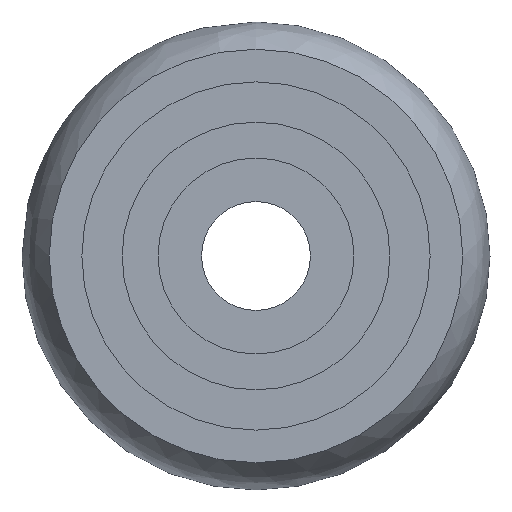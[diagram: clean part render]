
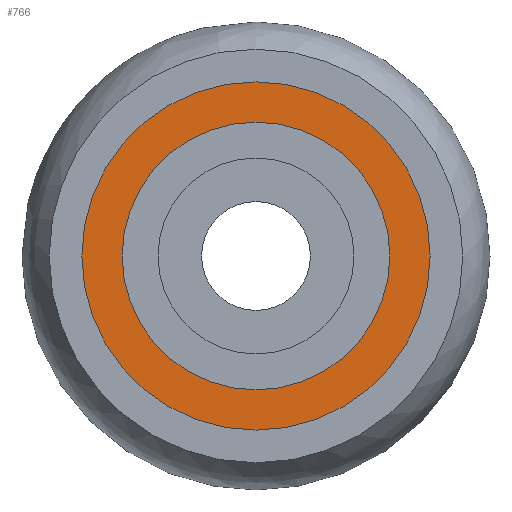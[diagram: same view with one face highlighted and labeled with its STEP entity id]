
A CAD part, left-side view. The second image highlights one B-rep face of the part: STEP entity #766.
In plain terms, the highlighted planar face has unit normal (-1, 0, 0).
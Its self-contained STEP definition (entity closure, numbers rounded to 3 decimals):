
#697 = CYLINDRICAL_SURFACE('',#698,6.15);
#698 = AXIS2_PLACEMENT_3D('',#699,#700,#701);
#699 = CARTESIAN_POINT('',(0.,0.,0.));
#700 = DIRECTION('',(1.,0.,0.));
#701 = DIRECTION('',(0.,0.,-1.));
#716 = VERTEX_POINT('',#717);
#717 = CARTESIAN_POINT('',(-2.5,0.,6.15));
#740 = EDGE_CURVE('',#716,#716,#741,.T.);
#741 = SURFACE_CURVE('',#742,(#747,#754),.PCURVE_S1.);
#742 = CIRCLE('',#743,6.15);
#743 = AXIS2_PLACEMENT_3D('',#744,#745,#746);
#744 = CARTESIAN_POINT('',(-2.5,0.,0.));
#745 = DIRECTION('',(1.,0.,0.));
#746 = DIRECTION('',(0.,0.,-1.));
#747 = PCURVE('',#697,#748);
#748 = DEFINITIONAL_REPRESENTATION('',(#749),#753);
#749 = LINE('',#750,#751);
#750 = CARTESIAN_POINT('',(0.,-2.5));
#751 = VECTOR('',#752,1.);
#752 = DIRECTION('',(1.,0.));
#753 = ( GEOMETRIC_REPRESENTATION_CONTEXT(2) 
PARAMETRIC_REPRESENTATION_CONTEXT() REPRESENTATION_CONTEXT('2D SPACE',''
  ) );
#754 = PCURVE('',#755,#760);
#755 = PLANE('',#756);
#756 = AXIS2_PLACEMENT_3D('',#757,#758,#759);
#757 = CARTESIAN_POINT('',(-2.5,0.,0.));
#758 = DIRECTION('',(1.,0.,0.));
#759 = DIRECTION('',(0.,0.,-1.));
#760 = DEFINITIONAL_REPRESENTATION('',(#761),#765);
#761 = CIRCLE('',#762,6.15);
#762 = AXIS2_PLACEMENT_2D('',#763,#764);
#763 = CARTESIAN_POINT('',(0.,0.));
#764 = DIRECTION('',(1.,0.));
#765 = ( GEOMETRIC_REPRESENTATION_CONTEXT(2) 
PARAMETRIC_REPRESENTATION_CONTEXT() REPRESENTATION_CONTEXT('2D SPACE',''
  ) );
#766 = ADVANCED_FACE('',(#767,#802),#755,.F.);
#767 = FACE_BOUND('',#768,.T.);
#768 = EDGE_LOOP('',(#769));
#769 = ORIENTED_EDGE('',*,*,#770,.T.);
#770 = EDGE_CURVE('',#771,#771,#773,.T.);
#771 = VERTEX_POINT('',#772);
#772 = CARTESIAN_POINT('',(-2.5,0.,8.));
#773 = SURFACE_CURVE('',#774,(#779,#790),.PCURVE_S1.);
#774 = CIRCLE('',#775,8.);
#775 = AXIS2_PLACEMENT_3D('',#776,#777,#778);
#776 = CARTESIAN_POINT('',(-2.5,0.,0.));
#777 = DIRECTION('',(-1.,0.,0.));
#778 = DIRECTION('',(0.,0.,-1.));
#779 = PCURVE('',#755,#780);
#780 = DEFINITIONAL_REPRESENTATION('',(#781),#789);
#781 = ( BOUNDED_CURVE() B_SPLINE_CURVE(2,(#782,#783,#784,#785,#786,#787
,#788),.UNSPECIFIED.,.T.,.F.) B_SPLINE_CURVE_WITH_KNOTS((1,2,2,2,2,1),(
    -2.094,0.,2.094,4.189,6.283,
8.378),.UNSPECIFIED.) CURVE() GEOMETRIC_REPRESENTATION_ITEM() 
RATIONAL_B_SPLINE_CURVE((1.,0.5,1.,0.5,1.,0.5,1.)) REPRESENTATION_ITEM(
  '') );
#782 = CARTESIAN_POINT('',(8.,0.));
#783 = CARTESIAN_POINT('',(8.,-13.856));
#784 = CARTESIAN_POINT('',(-4.,-6.928));
#785 = CARTESIAN_POINT('',(-16.,0.));
#786 = CARTESIAN_POINT('',(-4.,6.928));
#787 = CARTESIAN_POINT('',(8.,13.856));
#788 = CARTESIAN_POINT('',(8.,0.));
#789 = ( GEOMETRIC_REPRESENTATION_CONTEXT(2) 
PARAMETRIC_REPRESENTATION_CONTEXT() REPRESENTATION_CONTEXT('2D SPACE',''
  ) );
#790 = PCURVE('',#791,#796);
#791 = CYLINDRICAL_SURFACE('',#792,8.);
#792 = AXIS2_PLACEMENT_3D('',#793,#794,#795);
#793 = CARTESIAN_POINT('',(0.,0.,0.));
#794 = DIRECTION('',(1.,0.,0.));
#795 = DIRECTION('',(0.,0.,-1.));
#796 = DEFINITIONAL_REPRESENTATION('',(#797),#801);
#797 = LINE('',#798,#799);
#798 = CARTESIAN_POINT('',(6.283,-2.5));
#799 = VECTOR('',#800,1.);
#800 = DIRECTION('',(-1.,0.));
#801 = ( GEOMETRIC_REPRESENTATION_CONTEXT(2) 
PARAMETRIC_REPRESENTATION_CONTEXT() REPRESENTATION_CONTEXT('2D SPACE',''
  ) );
#802 = FACE_BOUND('',#803,.T.);
#803 = EDGE_LOOP('',(#804));
#804 = ORIENTED_EDGE('',*,*,#740,.T.);
